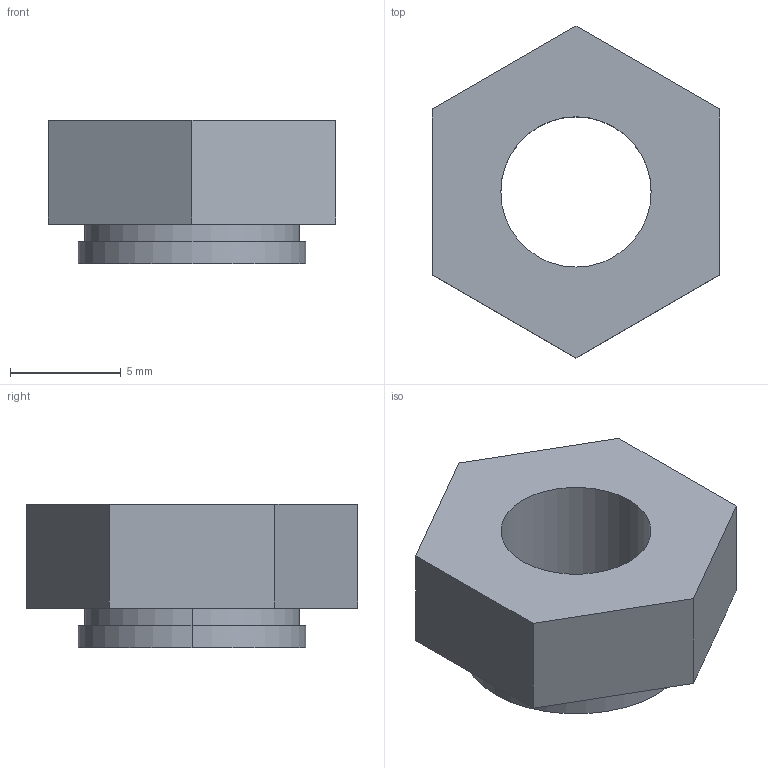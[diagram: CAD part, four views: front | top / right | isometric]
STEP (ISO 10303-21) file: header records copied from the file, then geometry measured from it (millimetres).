
FILE_DESCRIPTION (( 'STEP AP214' ), '1' );
FILE_NAME ('FO-00D-NCB-M8-020 FORMAT Ãàéêà M8 äëÿ çàïðåññîâêè â øèíó.STEP', '2025-09-02T07:00:02', ( '' ), ( '' ), 'SwSTEP 2.0', 'SolidWorks 2023', '' );
FILE_SCHEMA (( 'AUTOMOTIVE_DESIGN' ));
Length unit declared in the file: millimetre
Products named in the file (1): FO-00D-NCB-M8-020 FORMAT Гайка M8 для запрессовки в шину
Bounding box: 13 x 15.01 x 6.5 mm (x, y, z)
Volume: 594.3 mm3; surface area: 646.2 mm2
Topology: 1 solids, 1 shells, 16 faces, 36 edges, 24 vertices
Faces by surface type: plane 10, cylinder 6
Entity records: 479 total; most frequent: DIRECTION 82, CARTESIAN_POINT 77, ORIENTED_EDGE 72, EDGE_CURVE 36, AXIS2_PLACEMENT_3D 29, LINE 24, VERTEX_POINT 24, VECTOR 24
